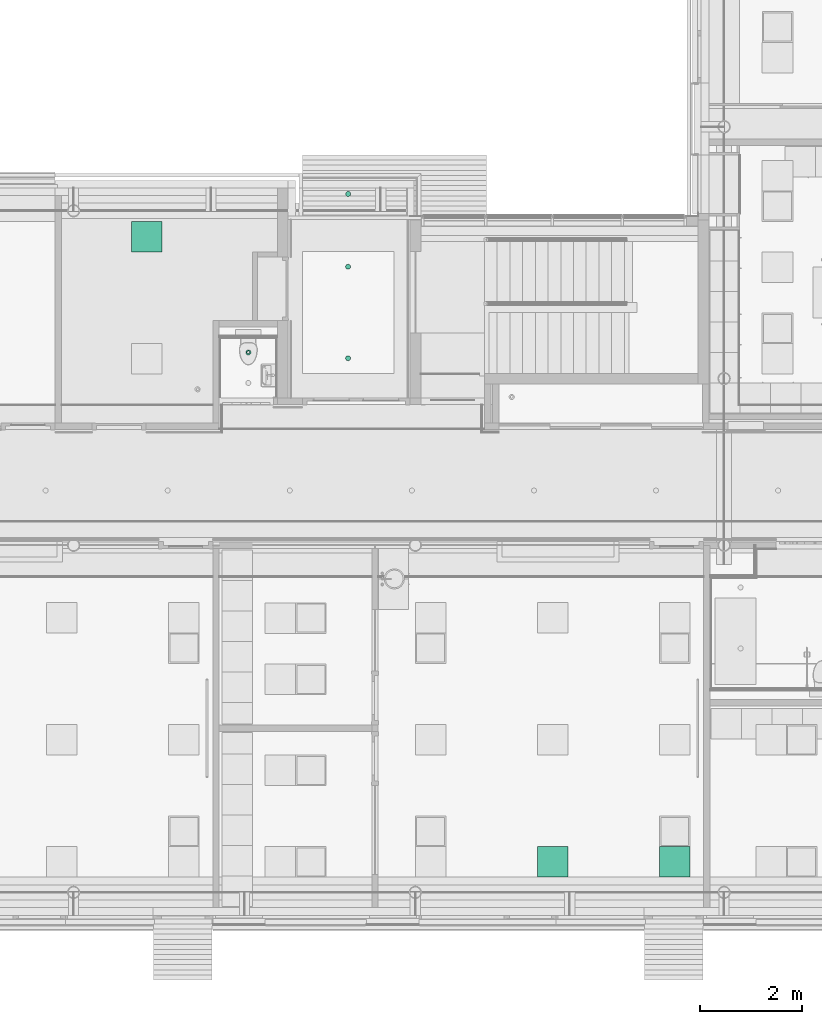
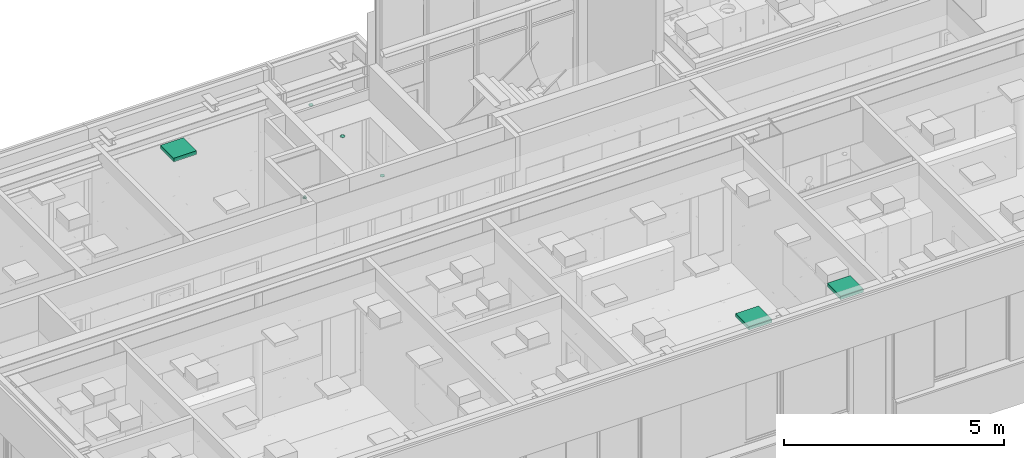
# One storey, part 198 of 347: 7 flow terminals.
"""IFC2X3 building model written with IfcOpenShell, lengths in millimetres."""

from ifc_helpers import new_model, entity, si_unit, converted_unit, derived_unit, money_unit, direction, frame, origin_with_axes, place, context, subcontext, project, spatial, open_shell, faceted_brep, surface_model, source, transform, mapped, type_object, type_shapes, element, save


model = new_model("IFC2X3")

# Units and contexts
model_context = context("Model", 3, precision=0.01, world=origin_with_axes(), true_north=direction((0.0, 1.0)))
plan_context = context("Plan", 3, precision=0.01, world=origin_with_axes(), true_north=direction((0.0, 1.0)))
body_context = subcontext(model_context, "Body", "Model", "MODEL_VIEW")
ifc_project = project(units=[si_unit("LENGTHUNIT", "METRE", prefix="MILLI"), si_unit("AREAUNIT", "SQUARE_METRE"), si_unit("VOLUMEUNIT", "CUBIC_METRE"), converted_unit("PLANEANGLEUNIT", "DEGREE", entity("IfcPlaneAngleMeasure", 0.0174532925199), si_unit("PLANEANGLEUNIT", "RADIAN"), dimensions=[0, 0, 0, 0, 0, 0, 0]), money_unit("EUR"), converted_unit("TIMEUNIT", "Year", entity("IfcTimeMeasure", 31556926.0), si_unit("TIMEUNIT", "SECOND"), dimensions=[0, 0, 1, 0, 0, 0, 0]), si_unit("MASSUNIT", "GRAM", prefix="KILO"), si_unit("THERMODYNAMICTEMPERATUREUNIT", "DEGREE_CELSIUS"), si_unit("LUMINOUSINTENSITYUNIT", "LUMEN"), si_unit("ENERGYUNIT", "JOULE", prefix="MEGA"), derived_unit("THERMALCONDUCTANCEUNIT", [(si_unit("POWERUNIT", "WATT"), 1), (si_unit("LENGTHUNIT", "METRE"), -1), (si_unit("THERMODYNAMICTEMPERATUREUNIT", "KELVIN"), -1)]), derived_unit("SPECIFICHEATCAPACITYUNIT", [(si_unit("ENERGYUNIT", "JOULE"), 1), (si_unit("MASSUNIT", "GRAM", prefix="KILO"), -1), (si_unit("THERMODYNAMICTEMPERATUREUNIT", "KELVIN"), -1)]), derived_unit("MASSDENSITYUNIT", [(si_unit("MASSUNIT", "GRAM", prefix="KILO"), 1), (si_unit("VOLUMEUNIT", "CUBIC_METRE"), -1)])], contexts=[model_context, plan_context])

# Site, building, storey
site_placement = place(None, origin_with_axes())
site = spatial("IfcSite", under=ifc_project, at=site_placement, Name="Site", CompositionType="ELEMENT")
building_placement = place(site_placement, origin_with_axes())
building = spatial("IfcBuilding", under=site, at=building_placement, Name="Naam gebouw", CompositionType="ELEMENT")
storey_placement = place(building_placement, origin_with_axes())
storey = spatial("IfcBuildingStorey", under=building, at=storey_placement, Name="begane grond", CompositionType="ELEMENT", Elevation=0.0)

# Flow terminals
lamp_type_1 = type_object("IfcLampType", Name="Spot plafond 01 25", PredefinedType="NOTDEFINED")
shared_shape_1 = source(origin_with_axes(), body_context, "Body", "SurfaceModel", [
    faceted_brep([(50.0, 0.0, -10.0), (46.1939766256, 19.1341716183, -10.0), (46.1939766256, 19.1341716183, 0.0), (50.0, 0.0, 0.0), (46.1939766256, -19.1341716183, -10.0), (35.3553390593, -35.3553390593, -10.0), (19.1341716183, -46.1939766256, -10.0), (0.0, -50.0, -10.0), (-19.1341716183, -46.1939766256, -10.0), (-35.3553390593, -35.3553390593, -10.0), (-46.1939766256, -19.1341716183, -10.0), (-50.0, 0.0, -10.0), (-46.1939766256, 19.1341716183, -10.0), (-35.3553390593, 35.3553390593, -10.0), (-19.1341716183, 46.1939766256, -10.0), (0.0, 50.0, -10.0), (19.1341716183, 46.1939766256, -10.0), (35.3553390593, 35.3553390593, -10.0), (40.0, 0.0, -10.0), (36.9551813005, 15.3073372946, -10.0), (28.2842712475, 28.2842712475, -10.0), (15.3073372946, 36.9551813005, -10.0), (0.0, 40.0, -10.0), (-15.3073372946, 36.9551813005, -10.0), (-28.2842712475, 28.2842712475, -10.0), (-36.9551813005, 15.3073372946, -10.0), (-40.0, 0.0, -10.0), (-36.9551813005, -15.3073372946, -10.0), (-28.2842712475, -28.2842712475, -10.0), (-15.3073372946, -36.9551813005, -10.0), (0.0, -40.0, -10.0), (15.3073372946, -36.9551813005, -10.0), (28.2842712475, -28.2842712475, -10.0), (36.9551813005, -15.3073372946, -10.0), (35.3553390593, 35.3553390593, 0.0), (19.1341716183, 46.1939766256, 0.0), (0.0, 50.0, 0.0), (-19.1341716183, 46.1939766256, 0.0), (-35.3553390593, 35.3553390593, 0.0), (-46.1939766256, 19.1341716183, 0.0), (-50.0, 0.0, 0.0), (-46.1939766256, -19.1341716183, 0.0), (-35.3553390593, -35.3553390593, 0.0), (-19.1341716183, -46.1939766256, 0.0), (0.0, -50.0, 0.0), (19.1341716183, -46.1939766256, 0.0), (35.3553390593, -35.3553390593, 0.0), (46.1939766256, -19.1341716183, 0.0), (40.0, 0.0, 0.0), (36.9551813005, -15.3073372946, 0.0), (28.2842712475, -28.2842712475, 0.0), (15.3073372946, -36.9551813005, 0.0), (0.0, -40.0, 0.0), (-15.3073372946, -36.9551813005, 0.0), (-28.2842712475, -28.2842712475, 0.0), (-36.9551813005, -15.3073372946, 0.0), (-40.0, 0.0, 0.0), (-36.9551813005, 15.3073372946, 0.0), (-28.2842712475, 28.2842712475, 0.0), (-15.3073372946, 36.9551813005, 0.0), (0.0, 40.0, 0.0), (15.3073372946, 36.9551813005, 0.0), (28.2842712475, 28.2842712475, 0.0), (36.9551813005, 15.3073372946, 0.0)], [[[0, 1, 2, 3]], [[0, 4, 5, 6, 7, 8, 9, 10, 11, 12, 13, 14, 15, 16, 17, 1], [18, 19, 20, 21, 22, 23, 24, 25, 26, 27, 28, 29, 30, 31, 32, 33]], [[1, 17, 34, 2]], [[3, 2, 34, 35, 36, 37, 38, 39, 40, 41, 42, 43, 44, 45, 46, 47], [48, 49, 50, 51, 52, 53, 54, 55, 56, 57, 58, 59, 60, 61, 62, 63]], [[4, 0, 3, 47]], [[5, 4, 47, 46]], [[6, 5, 46, 45]], [[7, 6, 45, 44]], [[8, 7, 44, 43]], [[9, 8, 43, 42]], [[10, 9, 42, 41]], [[11, 10, 41, 40]], [[12, 11, 40, 39]], [[13, 12, 39, 38]], [[14, 13, 38, 37]], [[15, 14, 37, 36]], [[16, 15, 36, 35]], [[17, 16, 35, 34]], [[19, 18, 48, 63]], [[20, 19, 63, 62]], [[21, 20, 62, 61]], [[22, 21, 61, 60]], [[23, 22, 60, 59]], [[24, 23, 59, 58]], [[25, 24, 58, 57]], [[26, 25, 57, 56]], [[27, 26, 56, 55]], [[28, 27, 55, 54]], [[29, 28, 54, 53]], [[30, 29, 53, 52]], [[31, 30, 52, 51]], [[32, 31, 51, 50]], [[33, 32, 50, 49]], [[18, 33, 49, 48]]]),
    surface_model("IfcShellBasedSurfaceModel", [(40.0, 0.0, -8.9), (36.9551813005, -15.3073372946, -8.9), (28.2842712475, -28.2842712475, -8.9), (15.3073372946, -36.9551813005, -8.9), (0.0, -40.0, -8.9), (-15.3073372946, -36.9551813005, -8.9), (-28.2842712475, -28.2842712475, -8.9), (-36.9551813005, -15.3073372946, -8.9), (-40.0, 0.0, -8.9), (-36.9551813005, 15.3073372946, -8.9), (-28.2842712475, 28.2842712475, -8.9), (-15.3073372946, 36.9551813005, -8.9), (0.0, 40.0, -8.9), (15.3073372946, 36.9551813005, -8.9), (28.2842712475, 28.2842712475, -8.9), (36.9551813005, 15.3073372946, -8.9)], [open_shell([[[0, 1, 2, 3, 4, 5, 6, 7, 8, 9, 10, 11, 12, 13, 14, 15]]])]),
])
type_shapes(lamp_type_1, [shared_shape_1])
for number, where, z_axis, x_axis, name in (
    (1, (17185.0000525, 15800.0, 2600.0), (0.0, 0.0, 1.0), (1.0, 0.0, 0.0), "63_Lamp-x"),
    (2, (17185.0000525, 17600.0, 2600.0), (0.0, 0.0, 1.0), (1.0, 0.0, 0.0), "63_Lamp-x"),
    (3, (17185.0000525, 19030.000089, 2600.0), (0.0, 0.0, 1.0), (1.0, 0.0, 0.0), "63_Lamp-x"),
):
    element("IfcFlowTerminal", number, at=place(storey_placement, frame(where, z_axis=z_axis, x_axis=x_axis)), inside=storey, type_object=lamp_type_1, Name=name, ObjectType="Lamp", context=body_context, shape_type="MappedRepresentation", body=[
        mapped(shared_shape_1, transform((0.0, 0.0, 0.0))),
    ])
lamp_type_2 = type_object("IfcLampType", Name="TL plafond 25", PredefinedType="NOTDEFINED")
shared_shape_2 = source(origin_with_axes(), body_context, "Body", "SurfaceModel", [
    faceted_brep([(0.0, 0.0, -100.0), (600.0, 0.0, -100.0), (600.0, 0.0, 0.0), (0.0, 0.0, 0.0), (0.0, 600.0, -100.0), (600.0, 600.0, -100.0), (40.0, 40.0, -100.0), (560.0, 40.0, -100.0), (560.0, 560.0, -100.0), (40.0, 560.0, -100.0), (600.0, 600.0, 0.0), (0.0, 600.0, 0.0), (40.0, 40.0, 0.0), (40.0, 560.0, 0.0), (560.0, 560.0, 0.0), (560.0, 40.0, 0.0)], [[[0, 1, 2, 3]], [[0, 4, 5, 1], [6, 7, 8, 9]], [[1, 5, 10, 2]], [[3, 2, 10, 11], [12, 13, 14, 15]], [[4, 0, 3, 11]], [[5, 4, 11, 10]], [[7, 6, 12, 15]], [[8, 7, 15, 14]], [[9, 8, 14, 13]], [[6, 9, 13, 12]]]),
    faceted_brep([(40.0, 40.0, -16.3333333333), (560.0, 40.0, -16.3333333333), (560.0, 40.0, 0.0), (40.0, 40.0, 0.0), (40.0, 560.0, -16.3333333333), (560.0, 560.0, -16.3333333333), (560.0, 560.0, 0.0), (40.0, 560.0, 0.0)], [[[0, 1, 2, 3]], [[0, 4, 5, 1]], [[1, 5, 6, 2]], [[3, 2, 6, 7]], [[4, 0, 3, 7]], [[5, 4, 7, 6]]]),
    surface_model("IfcShellBasedSurfaceModel", [(559.0, 41.0, -100.0), (40.0, 41.0, -100.0), (40.0, 559.0, -100.0), (559.0, 559.0, -100.0)], [open_shell([[[0, 1, 2, 3]]])]),
    faceted_brep([(40.0, 40.0, -100.0), (560.0, 40.0, -100.0), (560.0, 40.0, -60.0), (40.0, 40.0, -60.0), (40.0, 560.0, -100.0), (560.0, 560.0, -100.0), (41.0, 41.0, -100.0), (559.0, 41.0, -100.0), (559.0, 559.0, -100.0), (41.0, 559.0, -100.0), (560.0, 560.0, -60.0), (40.0, 560.0, -60.0), (41.0, 41.0, -60.0), (41.0, 559.0, -60.0), (559.0, 559.0, -60.0), (559.0, 41.0, -60.0)], [[[0, 1, 2, 3]], [[0, 4, 5, 1], [6, 7, 8, 9]], [[1, 5, 10, 2]], [[3, 2, 10, 11], [12, 13, 14, 15]], [[4, 0, 3, 11]], [[5, 4, 11, 10]], [[7, 6, 12, 15]], [[8, 7, 15, 14]], [[9, 8, 14, 13]], [[6, 9, 13, 12]]]),
    faceted_brep([(40.0, 144.0, -48.3333333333), (40.0, 149.740251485, -47.191526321), (560.0, 149.740251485, -47.191526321), (560.0, 144.0, -48.3333333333), (40.0, 138.259748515, -47.191526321), (40.0, 133.393398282, -43.9399350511), (40.0, 130.141807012, -39.0735848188), (40.0, 129.0, -33.3333333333), (40.0, 130.141807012, -27.5930818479), (40.0, 133.393398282, -22.7267316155), (40.0, 138.259748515, -19.4751403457), (40.0, 144.0, -18.3333333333), (40.0, 149.740251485, -19.4751403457), (40.0, 154.606601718, -22.7267316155), (40.0, 157.858192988, -27.5930818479), (40.0, 159.0, -33.3333333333), (40.0, 157.858192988, -39.0735848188), (40.0, 154.606601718, -43.9399350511), (40.0, 144.0, -46.3333333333), (40.0, 148.974884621, -45.343767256), (40.0, 153.192388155, -42.5257214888), (40.0, 156.010433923, -38.3082179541), (40.0, 157.0, -33.3333333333), (40.0, 156.010433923, -28.3584487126), (40.0, 153.192388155, -24.1409451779), (40.0, 148.974884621, -21.3228994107), (40.0, 144.0, -20.3333333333), (40.0, 139.025115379, -21.3228994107), (40.0, 134.807611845, -24.1409451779), (40.0, 131.989566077, -28.3584487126), (40.0, 131.0, -33.3333333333), (40.0, 131.989566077, -38.3082179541), (40.0, 134.807611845, -42.5257214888), (40.0, 139.025115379, -45.343767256), (560.0, 154.606601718, -43.9399350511), (560.0, 157.858192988, -39.0735848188), (560.0, 159.0, -33.3333333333), (560.0, 157.858192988, -27.5930818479), (560.0, 154.606601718, -22.7267316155), (560.0, 149.740251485, -19.4751403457), (560.0, 144.0, -18.3333333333), (560.0, 138.259748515, -19.4751403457), (560.0, 133.393398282, -22.7267316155), (560.0, 130.141807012, -27.5930818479), (560.0, 129.0, -33.3333333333), (560.0, 130.141807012, -39.0735848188), (560.0, 133.393398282, -43.9399350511), (560.0, 138.259748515, -47.191526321), (560.0, 144.0, -46.3333333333), (560.0, 139.025115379, -45.343767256), (560.0, 134.807611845, -42.5257214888), (560.0, 131.989566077, -38.3082179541), (560.0, 131.0, -33.3333333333), (560.0, 131.989566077, -28.3584487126), (560.0, 134.807611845, -24.1409451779), (560.0, 139.025115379, -21.3228994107), (560.0, 144.0, -20.3333333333), (560.0, 148.974884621, -21.3228994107), (560.0, 153.192388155, -24.1409451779), (560.0, 156.010433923, -28.3584487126), (560.0, 157.0, -33.3333333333), (560.0, 156.010433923, -38.3082179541), (560.0, 153.192388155, -42.5257214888), (560.0, 148.974884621, -45.343767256)], [[[0, 1, 2, 3]], [[0, 4, 5, 6, 7, 8, 9, 10, 11, 12, 13, 14, 15, 16, 17, 1], [18, 19, 20, 21, 22, 23, 24, 25, 26, 27, 28, 29, 30, 31, 32, 33]], [[1, 17, 34, 2]], [[3, 2, 34, 35, 36, 37, 38, 39, 40, 41, 42, 43, 44, 45, 46, 47], [48, 49, 50, 51, 52, 53, 54, 55, 56, 57, 58, 59, 60, 61, 62, 63]], [[4, 0, 3, 47]], [[5, 4, 47, 46]], [[6, 5, 46, 45]], [[7, 6, 45, 44]], [[8, 7, 44, 43]], [[9, 8, 43, 42]], [[10, 9, 42, 41]], [[11, 10, 41, 40]], [[12, 11, 40, 39]], [[13, 12, 39, 38]], [[14, 13, 38, 37]], [[15, 14, 37, 36]], [[16, 15, 36, 35]], [[17, 16, 35, 34]], [[19, 18, 48, 63]], [[20, 19, 63, 62]], [[21, 20, 62, 61]], [[22, 21, 61, 60]], [[23, 22, 60, 59]], [[24, 23, 59, 58]], [[25, 24, 58, 57]], [[26, 25, 57, 56]], [[27, 26, 56, 55]], [[28, 27, 55, 54]], [[29, 28, 54, 53]], [[30, 29, 53, 52]], [[31, 30, 52, 51]], [[32, 31, 51, 50]], [[33, 32, 50, 49]], [[18, 33, 49, 48]]]),
    faceted_brep([(40.0, 248.0, -48.3333333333), (40.0, 253.740251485, -47.191526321), (560.0, 253.740251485, -47.191526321), (560.0, 248.0, -48.3333333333), (40.0, 242.259748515, -47.191526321), (40.0, 237.393398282, -43.9399350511), (40.0, 234.141807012, -39.0735848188), (40.0, 233.0, -33.3333333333), (40.0, 234.141807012, -27.5930818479), (40.0, 237.393398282, -22.7267316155), (40.0, 242.259748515, -19.4751403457), (40.0, 248.0, -18.3333333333), (40.0, 253.740251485, -19.4751403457), (40.0, 258.606601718, -22.7267316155), (40.0, 261.858192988, -27.5930818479), (40.0, 263.0, -33.3333333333), (40.0, 261.858192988, -39.0735848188), (40.0, 258.606601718, -43.9399350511), (40.0, 248.0, -46.3333333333), (40.0, 252.974884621, -45.343767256), (40.0, 257.192388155, -42.5257214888), (40.0, 260.010433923, -38.3082179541), (40.0, 261.0, -33.3333333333), (40.0, 260.010433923, -28.3584487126), (40.0, 257.192388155, -24.1409451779), (40.0, 252.974884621, -21.3228994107), (40.0, 248.0, -20.3333333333), (40.0, 243.025115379, -21.3228994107), (40.0, 238.807611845, -24.1409451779), (40.0, 235.989566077, -28.3584487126), (40.0, 235.0, -33.3333333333), (40.0, 235.989566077, -38.3082179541), (40.0, 238.807611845, -42.5257214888), (40.0, 243.025115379, -45.343767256), (560.0, 258.606601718, -43.9399350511), (560.0, 261.858192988, -39.0735848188), (560.0, 263.0, -33.3333333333), (560.0, 261.858192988, -27.5930818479), (560.0, 258.606601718, -22.7267316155), (560.0, 253.740251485, -19.4751403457), (560.0, 248.0, -18.3333333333), (560.0, 242.259748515, -19.4751403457), (560.0, 237.393398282, -22.7267316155), (560.0, 234.141807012, -27.5930818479), (560.0, 233.0, -33.3333333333), (560.0, 234.141807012, -39.0735848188), (560.0, 237.393398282, -43.9399350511), (560.0, 242.259748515, -47.191526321), (560.0, 248.0, -46.3333333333), (560.0, 243.025115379, -45.343767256), (560.0, 238.807611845, -42.5257214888), (560.0, 235.989566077, -38.3082179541), (560.0, 235.0, -33.3333333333), (560.0, 235.989566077, -28.3584487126), (560.0, 238.807611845, -24.1409451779), (560.0, 243.025115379, -21.3228994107), (560.0, 248.0, -20.3333333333), (560.0, 252.974884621, -21.3228994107), (560.0, 257.192388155, -24.1409451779), (560.0, 260.010433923, -28.3584487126), (560.0, 261.0, -33.3333333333), (560.0, 260.010433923, -38.3082179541), (560.0, 257.192388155, -42.5257214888), (560.0, 252.974884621, -45.343767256)], [[[0, 1, 2, 3]], [[0, 4, 5, 6, 7, 8, 9, 10, 11, 12, 13, 14, 15, 16, 17, 1], [18, 19, 20, 21, 22, 23, 24, 25, 26, 27, 28, 29, 30, 31, 32, 33]], [[1, 17, 34, 2]], [[3, 2, 34, 35, 36, 37, 38, 39, 40, 41, 42, 43, 44, 45, 46, 47], [48, 49, 50, 51, 52, 53, 54, 55, 56, 57, 58, 59, 60, 61, 62, 63]], [[4, 0, 3, 47]], [[5, 4, 47, 46]], [[6, 5, 46, 45]], [[7, 6, 45, 44]], [[8, 7, 44, 43]], [[9, 8, 43, 42]], [[10, 9, 42, 41]], [[11, 10, 41, 40]], [[12, 11, 40, 39]], [[13, 12, 39, 38]], [[14, 13, 38, 37]], [[15, 14, 37, 36]], [[16, 15, 36, 35]], [[17, 16, 35, 34]], [[19, 18, 48, 63]], [[20, 19, 63, 62]], [[21, 20, 62, 61]], [[22, 21, 61, 60]], [[23, 22, 60, 59]], [[24, 23, 59, 58]], [[25, 24, 58, 57]], [[26, 25, 57, 56]], [[27, 26, 56, 55]], [[28, 27, 55, 54]], [[29, 28, 54, 53]], [[30, 29, 53, 52]], [[31, 30, 52, 51]], [[32, 31, 51, 50]], [[33, 32, 50, 49]], [[18, 33, 49, 48]]]),
    faceted_brep([(40.0, 352.0, -48.3333333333), (40.0, 357.740251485, -47.191526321), (560.0, 357.740251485, -47.191526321), (560.0, 352.0, -48.3333333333), (40.0, 346.259748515, -47.191526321), (40.0, 341.393398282, -43.9399350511), (40.0, 338.141807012, -39.0735848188), (40.0, 337.0, -33.3333333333), (40.0, 338.141807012, -27.5930818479), (40.0, 341.393398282, -22.7267316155), (40.0, 346.259748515, -19.4751403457), (40.0, 352.0, -18.3333333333), (40.0, 357.740251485, -19.4751403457), (40.0, 362.606601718, -22.7267316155), (40.0, 365.858192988, -27.5930818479), (40.0, 367.0, -33.3333333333), (40.0, 365.858192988, -39.0735848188), (40.0, 362.606601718, -43.9399350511), (40.0, 352.0, -46.3333333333), (40.0, 356.974884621, -45.343767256), (40.0, 361.192388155, -42.5257214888), (40.0, 364.010433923, -38.3082179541), (40.0, 365.0, -33.3333333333), (40.0, 364.010433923, -28.3584487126), (40.0, 361.192388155, -24.1409451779), (40.0, 356.974884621, -21.3228994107), (40.0, 352.0, -20.3333333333), (40.0, 347.025115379, -21.3228994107), (40.0, 342.807611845, -24.1409451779), (40.0, 339.989566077, -28.3584487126), (40.0, 339.0, -33.3333333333), (40.0, 339.989566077, -38.3082179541), (40.0, 342.807611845, -42.5257214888), (40.0, 347.025115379, -45.343767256), (560.0, 362.606601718, -43.9399350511), (560.0, 365.858192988, -39.0735848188), (560.0, 367.0, -33.3333333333), (560.0, 365.858192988, -27.5930818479), (560.0, 362.606601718, -22.7267316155), (560.0, 357.740251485, -19.4751403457), (560.0, 352.0, -18.3333333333), (560.0, 346.259748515, -19.4751403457), (560.0, 341.393398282, -22.7267316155), (560.0, 338.141807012, -27.5930818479), (560.0, 337.0, -33.3333333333), (560.0, 338.141807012, -39.0735848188), (560.0, 341.393398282, -43.9399350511), (560.0, 346.259748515, -47.191526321), (560.0, 352.0, -46.3333333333), (560.0, 347.025115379, -45.343767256), (560.0, 342.807611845, -42.5257214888), (560.0, 339.989566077, -38.3082179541), (560.0, 339.0, -33.3333333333), (560.0, 339.989566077, -28.3584487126), (560.0, 342.807611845, -24.1409451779), (560.0, 347.025115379, -21.3228994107), (560.0, 352.0, -20.3333333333), (560.0, 356.974884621, -21.3228994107), (560.0, 361.192388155, -24.1409451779), (560.0, 364.010433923, -28.3584487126), (560.0, 365.0, -33.3333333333), (560.0, 364.010433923, -38.3082179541), (560.0, 361.192388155, -42.5257214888), (560.0, 356.974884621, -45.343767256)], [[[0, 1, 2, 3]], [[0, 4, 5, 6, 7, 8, 9, 10, 11, 12, 13, 14, 15, 16, 17, 1], [18, 19, 20, 21, 22, 23, 24, 25, 26, 27, 28, 29, 30, 31, 32, 33]], [[1, 17, 34, 2]], [[3, 2, 34, 35, 36, 37, 38, 39, 40, 41, 42, 43, 44, 45, 46, 47], [48, 49, 50, 51, 52, 53, 54, 55, 56, 57, 58, 59, 60, 61, 62, 63]], [[4, 0, 3, 47]], [[5, 4, 47, 46]], [[6, 5, 46, 45]], [[7, 6, 45, 44]], [[8, 7, 44, 43]], [[9, 8, 43, 42]], [[10, 9, 42, 41]], [[11, 10, 41, 40]], [[12, 11, 40, 39]], [[13, 12, 39, 38]], [[14, 13, 38, 37]], [[15, 14, 37, 36]], [[16, 15, 36, 35]], [[17, 16, 35, 34]], [[19, 18, 48, 63]], [[20, 19, 63, 62]], [[21, 20, 62, 61]], [[22, 21, 61, 60]], [[23, 22, 60, 59]], [[24, 23, 59, 58]], [[25, 24, 58, 57]], [[26, 25, 57, 56]], [[27, 26, 56, 55]], [[28, 27, 55, 54]], [[29, 28, 54, 53]], [[30, 29, 53, 52]], [[31, 30, 52, 51]], [[32, 31, 51, 50]], [[33, 32, 50, 49]], [[18, 33, 49, 48]]]),
    faceted_brep([(40.0, 456.0, -48.3333333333), (40.0, 461.740251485, -47.191526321), (560.0, 461.740251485, -47.191526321), (560.0, 456.0, -48.3333333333), (40.0, 450.259748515, -47.191526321), (40.0, 445.393398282, -43.9399350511), (40.0, 442.141807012, -39.0735848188), (40.0, 441.0, -33.3333333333), (40.0, 442.141807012, -27.5930818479), (40.0, 445.393398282, -22.7267316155), (40.0, 450.259748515, -19.4751403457), (40.0, 456.0, -18.3333333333), (40.0, 461.740251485, -19.4751403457), (40.0, 466.606601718, -22.7267316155), (40.0, 469.858192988, -27.5930818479), (40.0, 471.0, -33.3333333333), (40.0, 469.858192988, -39.0735848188), (40.0, 466.606601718, -43.9399350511), (40.0, 456.0, -46.3333333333), (40.0, 460.974884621, -45.343767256), (40.0, 465.192388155, -42.5257214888), (40.0, 468.010433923, -38.3082179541), (40.0, 469.0, -33.3333333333), (40.0, 468.010433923, -28.3584487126), (40.0, 465.192388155, -24.1409451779), (40.0, 460.974884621, -21.3228994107), (40.0, 456.0, -20.3333333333), (40.0, 451.025115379, -21.3228994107), (40.0, 446.807611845, -24.1409451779), (40.0, 443.989566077, -28.3584487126), (40.0, 443.0, -33.3333333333), (40.0, 443.989566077, -38.3082179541), (40.0, 446.807611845, -42.5257214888), (40.0, 451.025115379, -45.343767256), (560.0, 466.606601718, -43.9399350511), (560.0, 469.858192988, -39.0735848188), (560.0, 471.0, -33.3333333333), (560.0, 469.858192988, -27.5930818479), (560.0, 466.606601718, -22.7267316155), (560.0, 461.740251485, -19.4751403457), (560.0, 456.0, -18.3333333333), (560.0, 450.259748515, -19.4751403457), (560.0, 445.393398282, -22.7267316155), (560.0, 442.141807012, -27.5930818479), (560.0, 441.0, -33.3333333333), (560.0, 442.141807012, -39.0735848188), (560.0, 445.393398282, -43.9399350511), (560.0, 450.259748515, -47.191526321), (560.0, 456.0, -46.3333333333), (560.0, 451.025115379, -45.343767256), (560.0, 446.807611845, -42.5257214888), (560.0, 443.989566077, -38.3082179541), (560.0, 443.0, -33.3333333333), (560.0, 443.989566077, -28.3584487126), (560.0, 446.807611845, -24.1409451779), (560.0, 451.025115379, -21.3228994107), (560.0, 456.0, -20.3333333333), (560.0, 460.974884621, -21.3228994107), (560.0, 465.192388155, -24.1409451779), (560.0, 468.010433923, -28.3584487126), (560.0, 469.0, -33.3333333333), (560.0, 468.010433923, -38.3082179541), (560.0, 465.192388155, -42.5257214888), (560.0, 460.974884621, -45.343767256)], [[[0, 1, 2, 3]], [[0, 4, 5, 6, 7, 8, 9, 10, 11, 12, 13, 14, 15, 16, 17, 1], [18, 19, 20, 21, 22, 23, 24, 25, 26, 27, 28, 29, 30, 31, 32, 33]], [[1, 17, 34, 2]], [[3, 2, 34, 35, 36, 37, 38, 39, 40, 41, 42, 43, 44, 45, 46, 47], [48, 49, 50, 51, 52, 53, 54, 55, 56, 57, 58, 59, 60, 61, 62, 63]], [[4, 0, 3, 47]], [[5, 4, 47, 46]], [[6, 5, 46, 45]], [[7, 6, 45, 44]], [[8, 7, 44, 43]], [[9, 8, 43, 42]], [[10, 9, 42, 41]], [[11, 10, 41, 40]], [[12, 11, 40, 39]], [[13, 12, 39, 38]], [[14, 13, 38, 37]], [[15, 14, 37, 36]], [[16, 15, 36, 35]], [[17, 16, 35, 34]], [[19, 18, 48, 63]], [[20, 19, 63, 62]], [[21, 20, 62, 61]], [[22, 21, 61, 60]], [[23, 22, 60, 59]], [[24, 23, 59, 58]], [[25, 24, 58, 57]], [[26, 25, 57, 56]], [[27, 26, 56, 55]], [[28, 27, 55, 54]], [[29, 28, 54, 53]], [[30, 29, 53, 52]], [[31, 30, 52, 51]], [[32, 31, 51, 50]], [[33, 32, 50, 49]], [[18, 33, 49, 48]]]),
])
type_shapes(lamp_type_2, [shared_shape_2])
for number, where, z_axis, x_axis, name in (
    (4, (20905.0, 5599.99997201, 3295.0), (0.0, 0.0, 1.0), (1.0, 0.0, 0.0), "63_Lamp-x"),
    (5, (23305.0, 5599.99997201, 3295.0), (0.0, 0.0, 1.0), (1.0, 0.0, 0.0), "63_Lamp-x"),
    (6, (12929.0, 17890.000144, 3295.0), (0.0, 0.0, 1.0), (1.0, 0.0, 0.0), "63_Lamp-x"),
):
    element("IfcFlowTerminal", number, at=place(storey_placement, frame(where, z_axis=z_axis, x_axis=x_axis)), inside=storey, type_object=lamp_type_2, Name=name, ObjectType="Lamp", context=body_context, shape_type="MappedRepresentation", body=[
        mapped(shared_shape_2, transform((0.0, 0.0, 0.0))),
    ])
air_terminal_type = type_object("IfcAirTerminalType", Name="Rooster plafond rond 25", PredefinedType="GRILLE")
shared_shape_3 = source(origin_with_axes(), body_context, "Body", "SurfaceModel", [
    faceted_brep([(51.0, 0.0, -5.0), (49.2622171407, 13.1997713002, -5.0), (49.2622171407, 13.1997713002, 0.0), (51.0, 0.0, 0.0), (49.2622171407, -13.1997713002, -5.0), (44.167295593, -25.5, -5.0), (36.0624458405, -36.0624458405, -5.0), (25.5, -44.167295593, -5.0), (13.1997713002, -49.2622171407, -5.0), (0.0, -51.0, -5.0), (-13.1997713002, -49.2622171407, -5.0), (-25.5, -44.167295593, -5.0), (-36.0624458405, -36.0624458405, -5.0), (-44.167295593, -25.5, -5.0), (-49.2622171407, -13.1997713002, -5.0), (-51.0, 0.0, -5.0), (-49.2622171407, 13.1997713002, -5.0), (-44.167295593, 25.5, -5.0), (-36.0624458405, 36.0624458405, -5.0), (-25.5, 44.167295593, -5.0), (-13.1997713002, 49.2622171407, -5.0), (0.0, 51.0, -5.0), (13.1997713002, 49.2622171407, -5.0), (25.5, 44.167295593, -5.0), (36.0624458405, 36.0624458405, -5.0), (44.167295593, 25.5, -5.0), (26.0, 0.0, -5.0), (25.1140714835, 6.72929517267, -5.0), (22.5166604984, 13.0, -5.0), (18.3847763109, 18.3847763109, -5.0), (13.0, 22.5166604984, -5.0), (6.72929517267, 25.1140714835, -5.0), (0.0, 26.0, -5.0), (-6.72929517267, 25.1140714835, -5.0), (-13.0, 22.5166604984, -5.0), (-18.3847763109, 18.3847763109, -5.0), (-22.5166604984, 13.0, -5.0), (-25.1140714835, 6.72929517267, -5.0), (-26.0, 0.0, -5.0), (-25.1140714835, -6.72929517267, -5.0), (-22.5166604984, -13.0, -5.0), (-18.3847763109, -18.3847763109, -5.0), (-13.0, -22.5166604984, -5.0), (-6.72929517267, -25.1140714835, -5.0), (0.0, -26.0, -5.0), (6.72929517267, -25.1140714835, -5.0), (13.0, -22.5166604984, -5.0), (18.3847763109, -18.3847763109, -5.0), (22.5166604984, -13.0, -5.0), (25.1140714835, -6.72929517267, -5.0), (44.167295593, 25.5, 0.0), (36.0624458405, 36.0624458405, 0.0), (25.5, 44.167295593, 0.0), (13.1997713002, 49.2622171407, 0.0), (0.0, 51.0, 0.0), (-13.1997713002, 49.2622171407, 0.0), (-25.5, 44.167295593, 0.0), (-36.0624458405, 36.0624458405, 0.0), (-44.167295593, 25.5, 0.0), (-49.2622171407, 13.1997713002, 0.0), (-51.0, 0.0, 0.0), (-49.2622171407, -13.1997713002, 0.0), (-44.167295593, -25.5, 0.0), (-36.0624458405, -36.0624458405, 0.0), (-25.5, -44.167295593, 0.0), (-13.1997713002, -49.2622171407, 0.0), (0.0, -51.0, 0.0), (13.1997713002, -49.2622171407, 0.0), (25.5, -44.167295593, 0.0), (36.0624458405, -36.0624458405, 0.0), (44.167295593, -25.5, 0.0), (49.2622171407, -13.1997713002, 0.0), (26.0, 0.0, 0.0), (25.1140714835, -6.72929517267, 0.0), (22.5166604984, -13.0, 0.0), (18.3847763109, -18.3847763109, 0.0), (13.0, -22.5166604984, 0.0), (6.72929517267, -25.1140714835, 0.0), (0.0, -26.0, 0.0), (-6.72929517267, -25.1140714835, 0.0), (-13.0, -22.5166604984, 0.0), (-18.3847763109, -18.3847763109, 0.0), (-22.5166604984, -13.0, 0.0), (-25.1140714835, -6.72929517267, 0.0), (-26.0, 0.0, 0.0), (-25.1140714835, 6.72929517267, 0.0), (-22.5166604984, 13.0, 0.0), (-18.3847763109, 18.3847763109, 0.0), (-13.0, 22.5166604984, 0.0), (-6.72929517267, 25.1140714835, 0.0), (0.0, 26.0, 0.0), (6.72929517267, 25.1140714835, 0.0), (13.0, 22.5166604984, 0.0), (18.3847763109, 18.3847763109, 0.0), (22.5166604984, 13.0, 0.0), (25.1140714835, 6.72929517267, 0.0)], [[[0, 1, 2, 3]], [[0, 4, 5, 6, 7, 8, 9, 10, 11, 12, 13, 14, 15, 16, 17, 18, 19, 20, 21, 22, 23, 24, 25, 1], [26, 27, 28, 29, 30, 31, 32, 33, 34, 35, 36, 37, 38, 39, 40, 41, 42, 43, 44, 45, 46, 47, 48, 49]], [[1, 25, 50, 2]], [[3, 2, 50, 51, 52, 53, 54, 55, 56, 57, 58, 59, 60, 61, 62, 63, 64, 65, 66, 67, 68, 69, 70, 71], [72, 73, 74, 75, 76, 77, 78, 79, 80, 81, 82, 83, 84, 85, 86, 87, 88, 89, 90, 91, 92, 93, 94, 95]], [[4, 0, 3, 71]], [[5, 4, 71, 70]], [[6, 5, 70, 69]], [[7, 6, 69, 68]], [[8, 7, 68, 67]], [[9, 8, 67, 66]], [[10, 9, 66, 65]], [[11, 10, 65, 64]], [[12, 11, 64, 63]], [[13, 12, 63, 62]], [[14, 13, 62, 61]], [[15, 14, 61, 60]], [[16, 15, 60, 59]], [[17, 16, 59, 58]], [[18, 17, 58, 57]], [[19, 18, 57, 56]], [[20, 19, 56, 55]], [[21, 20, 55, 54]], [[22, 21, 54, 53]], [[23, 22, 53, 52]], [[24, 23, 52, 51]], [[25, 24, 51, 50]], [[27, 26, 72, 95]], [[28, 27, 95, 94]], [[29, 28, 94, 93]], [[30, 29, 93, 92]], [[31, 30, 92, 91]], [[32, 31, 91, 90]], [[33, 32, 90, 89]], [[34, 33, 89, 88]], [[35, 34, 88, 87]], [[36, 35, 87, 86]], [[37, 36, 86, 85]], [[38, 37, 85, 84]], [[39, 38, 84, 83]], [[40, 39, 83, 82]], [[41, 40, 82, 81]], [[42, 41, 81, 80]], [[43, 42, 80, 79]], [[44, 43, 79, 78]], [[45, 44, 78, 77]], [[46, 45, 77, 76]], [[47, 46, 76, 75]], [[48, 47, 75, 74]], [[49, 48, 74, 73]], [[26, 49, 73, 72]]]),
    surface_model("IfcShellBasedSurfaceModel", [(0.0, -26.0, 0.0), (6.72929517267, -25.1140714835, 0.0), (6.72929517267, -25.1140714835, 50.0), (0.0, -26.0, 50.0), (13.0, -22.5166604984, 0.0), (13.0, -22.5166604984, 50.0), (-6.72929517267, -25.1140714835, 0.0), (-6.72929517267, -25.1140714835, 50.0), (18.3847763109, -18.3847763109, 0.0), (18.3847763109, -18.3847763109, 50.0), (-13.0, -22.5166604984, 0.0), (-13.0, -22.5166604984, 50.0), (22.5166604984, -13.0, 0.0), (22.5166604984, -13.0, 50.0), (-18.3847763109, -18.3847763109, 0.0), (-18.3847763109, -18.3847763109, 50.0), (25.1140714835, -6.72929517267, 0.0), (25.1140714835, -6.72929517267, 50.0), (-22.5166604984, -13.0, 0.0), (-22.5166604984, -13.0, 50.0), (26.0, 0.0, 0.0), (26.0, 0.0, 50.0), (-25.1140714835, -6.72929517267, 0.0), (-25.1140714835, -6.72929517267, 50.0), (25.1140714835, 6.72929517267, 0.0), (25.1140714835, 6.72929517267, 50.0), (-26.0, 0.0, 0.0), (-26.0, 0.0, 50.0), (22.5166604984, 13.0, 0.0), (22.5166604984, 13.0, 50.0), (-25.1140714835, 6.72929517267, 0.0), (-25.1140714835, 6.72929517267, 50.0), (18.3847763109, 18.3847763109, 0.0), (18.3847763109, 18.3847763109, 50.0), (-22.5166604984, 13.0, 0.0), (-22.5166604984, 13.0, 50.0), (13.0, 22.5166604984, 0.0), (13.0, 22.5166604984, 50.0), (-18.3847763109, 18.3847763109, 0.0), (-18.3847763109, 18.3847763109, 50.0), (6.72929517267, 25.1140714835, 0.0), (6.72929517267, 25.1140714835, 50.0), (-13.0, 22.5166604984, 0.0), (-13.0, 22.5166604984, 50.0), (0.0, 26.0, 0.0), (0.0, 26.0, 50.0), (-6.72929517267, 25.1140714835, 0.0), (-6.72929517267, 25.1140714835, 50.0)], [open_shell([[[0, 1, 2, 3]], [[1, 4, 5, 2]], [[6, 0, 3, 7]], [[4, 8, 9, 5]], [[10, 6, 7, 11]], [[8, 12, 13, 9]], [[14, 10, 11, 15]], [[12, 16, 17, 13]], [[18, 14, 15, 19]], [[16, 20, 21, 17]], [[22, 18, 19, 23]], [[20, 24, 25, 21]], [[26, 22, 23, 27]], [[24, 28, 29, 25]], [[30, 26, 27, 31]], [[28, 32, 33, 29]], [[34, 30, 31, 35]], [[32, 36, 37, 33]], [[38, 34, 35, 39]], [[36, 40, 41, 37]], [[42, 38, 39, 43]], [[40, 44, 45, 41]], [[46, 42, 43, 47]], [[44, 46, 47, 45]]])]),
])
type_shapes(air_terminal_type, [shared_shape_3])
flow_terminal_placement = place(storey_placement, frame((15222.5, 15915.0, 2600.0), z_axis=(0.0, 0.0, 1.0), x_axis=(1.0, 0.0, 0.0)))
element("IfcFlowTerminal", 7, at=flow_terminal_placement, inside=storey, type_object=air_terminal_type, Name="57_78 garderobe", context=body_context, shape_type="MappedRepresentation", body=[
    mapped(shared_shape_3, transform((0.0, 0.0, 0.0))),
])

save(model, "model.ifc")
